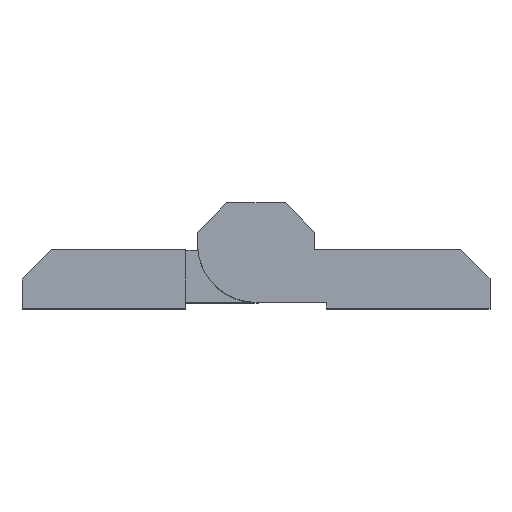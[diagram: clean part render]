
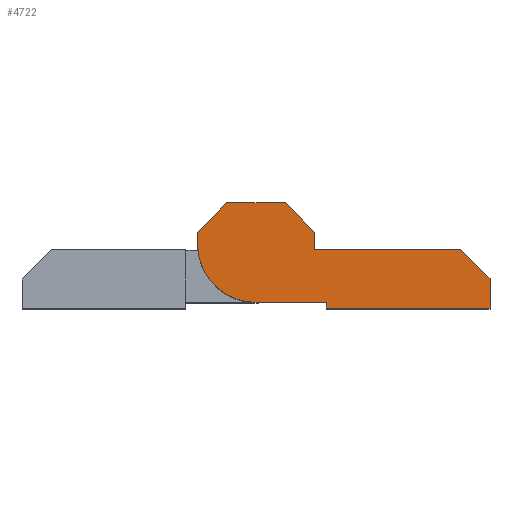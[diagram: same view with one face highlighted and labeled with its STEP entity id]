
A CAD part, top view. The second image highlights one B-rep face of the part: STEP entity #4722.
In plain terms, the highlighted planar face has unit normal (0, 0, 1) as drawn and (0, 0, -1) by its records, which use the part's own axes.
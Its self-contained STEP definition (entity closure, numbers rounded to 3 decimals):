
#175 = VECTOR ( 'NONE', #4039, 1000. ) ;
#354 = VERTEX_POINT ( 'NONE', #3472 ) ;
#476 = LINE ( 'NONE', #9415, #8326 ) ;
#759 = LINE ( 'NONE', #8026, #12015 ) ;
#962 = DIRECTION ( 'NONE',  ( 1., 0., 0. ) ) ;
#1066 = CARTESIAN_POINT ( 'NONE',  ( -5., -0.5, 0. ) ) ;
#1359 = VECTOR ( 'NONE', #3461, 1000. ) ;
#1420 = VERTEX_POINT ( 'NONE', #4085 ) ;
#1728 = VERTEX_POINT ( 'NONE', #13054 ) ;
#1833 = DIRECTION ( 'NONE',  ( 1., 0., 0. ) ) ;
#1932 = CARTESIAN_POINT ( 'NONE',  ( -17.5, -0.5, 0. ) ) ;
#1958 = CARTESIAN_POINT ( 'NONE',  ( -20., -3., 0. ) ) ;
#2100 = EDGE_CURVE ( 'NONE', #8627, #12536, #476, .T. ) ;
#2144 = CIRCLE ( 'NONE', #9670, 5. ) ;
#2277 = CARTESIAN_POINT ( 'NONE',  ( 5., 0., 0. ) ) ;
#2293 = CARTESIAN_POINT ( 'NONE',  ( -6., -5., 0. ) ) ;
#2438 = DIRECTION ( 'NONE',  ( 0., 0., 1. ) ) ;
#2521 = DIRECTION ( 'NONE',  ( -1., 0., 0. ) ) ;
#2766 = CARTESIAN_POINT ( 'NONE',  ( -17.5, -0.5, 0. ) ) ;
#2845 = DIRECTION ( 'NONE',  ( 0., 1., 0. ) ) ;
#3414 = ORIENTED_EDGE ( 'NONE', *, *, #11072, .F. ) ;
#3421 = CARTESIAN_POINT ( 'NONE',  ( 2.5, 3.5, 0. ) ) ;
#3461 = DIRECTION ( 'NONE',  ( -1., 0., 0. ) ) ;
#3472 = CARTESIAN_POINT ( 'NONE',  ( -20., -3., 0. ) ) ;
#3520 = ORIENTED_EDGE ( 'NONE', *, *, #13023, .F. ) ;
#3823 = VECTOR ( 'NONE', #9273, 1000. ) ;
#3840 = VERTEX_POINT ( 'NONE', #2293 ) ;
#3999 = EDGE_CURVE ( 'NONE', #6646, #10235, #9885, .T. ) ;
#4039 = DIRECTION ( 'NONE',  ( -0.707, 0.707, 0. ) ) ;
#4085 = CARTESIAN_POINT ( 'NONE',  ( -20., -5.5, 0. ) ) ;
#4143 = EDGE_CURVE ( 'NONE', #7069, #1728, #8396, .T. ) ;
#4244 = DIRECTION ( 'NONE',  ( 0., -1., 0. ) ) ;
#4319 = ORIENTED_EDGE ( 'NONE', *, *, #4923, .F. ) ;
#4435 = ORIENTED_EDGE ( 'NONE', *, *, #5433, .F. ) ;
#4565 = VERTEX_POINT ( 'NONE', #6956 ) ;
#4643 = ORIENTED_EDGE ( 'NONE', *, *, #9928, .F. ) ;
#4687 = VECTOR ( 'NONE', #9213, 1000. ) ;
#4722 = ADVANCED_FACE ( 'NONE', ( #9427 ), #8551, .F. ) ;
#4728 = CARTESIAN_POINT ( 'NONE',  ( -6., -5., 0. ) ) ;
#4920 = LINE ( 'NONE', #2766, #8422 ) ;
#4923 = EDGE_CURVE ( 'NONE', #12726, #354, #12224, .T. ) ;
#5330 = CARTESIAN_POINT ( 'NONE',  ( 0., -5., 0. ) ) ;
#5433 = EDGE_CURVE ( 'NONE', #1728, #6646, #11080, .T. ) ;
#5642 = VECTOR ( 'NONE', #4244, 1000. ) ;
#5677 = ORIENTED_EDGE ( 'NONE', *, *, #2100, .F. ) ;
#5784 = CARTESIAN_POINT ( 'NONE',  ( 2.5, 3.5, 0. ) ) ;
#5952 = EDGE_LOOP ( 'NONE', ( #4435, #8493, #6431, #3520, #8316, #4643, #9726, #4319, #6761, #5677, #3414, #10208 ) ) ;
#6174 = CARTESIAN_POINT ( 'NONE',  ( -2.5, 3.5, 0. ) ) ;
#6431 = ORIENTED_EDGE ( 'NONE', *, *, #13025, .F. ) ;
#6646 = VERTEX_POINT ( 'NONE', #3421 ) ;
#6761 = ORIENTED_EDGE ( 'NONE', *, *, #9260, .F. ) ;
#6762 = DIRECTION ( 'NONE',  ( 1., 0., 0. ) ) ;
#6956 = CARTESIAN_POINT ( 'NONE',  ( -6., -5.5, 0. ) ) ;
#7064 = EDGE_CURVE ( 'NONE', #4565, #3840, #9095, .T. ) ;
#7069 = VERTEX_POINT ( 'NONE', #11904 ) ;
#8026 = CARTESIAN_POINT ( 'NONE',  ( 0., -5., 0. ) ) ;
#8217 = LINE ( 'NONE', #9223, #10948 ) ;
#8316 = ORIENTED_EDGE ( 'NONE', *, *, #7064, .F. ) ;
#8326 = VECTOR ( 'NONE', #12501, 1000. ) ;
#8396 = LINE ( 'NONE', #2277, #3823 ) ;
#8422 = VECTOR ( 'NONE', #2521, 1000. ) ;
#8493 = ORIENTED_EDGE ( 'NONE', *, *, #4143, .F. ) ;
#8551 = PLANE ( 'NONE',  #13035 ) ;
#8627 = VERTEX_POINT ( 'NONE', #13158 ) ;
#8651 = VECTOR ( 'NONE', #6762, 1000. ) ;
#9095 = LINE ( 'NONE', #4728, #13076 ) ;
#9163 = DIRECTION ( 'NONE',  ( 0., 0., 1. ) ) ;
#9213 = DIRECTION ( 'NONE',  ( -0.707, -0.707, 0. ) ) ;
#9214 = LINE ( 'NONE', #9408, #5642 ) ;
#9223 = CARTESIAN_POINT ( 'NONE',  ( -2.5, 3.5, 0. ) ) ;
#9260 = EDGE_CURVE ( 'NONE', #12536, #12726, #4920, .T. ) ;
#9273 = DIRECTION ( 'NONE',  ( 0., 1., 0. ) ) ;
#9335 = EDGE_CURVE ( 'NONE', #354, #1420, #9214, .T. ) ;
#9408 = CARTESIAN_POINT ( 'NONE',  ( -20., -5.5, 0. ) ) ;
#9415 = CARTESIAN_POINT ( 'NONE',  ( -5., -0.5, 0. ) ) ;
#9427 = FACE_OUTER_BOUND ( 'NONE', #5952, .T. ) ;
#9670 = AXIS2_PLACEMENT_3D ( 'NONE', #13053, #9163, #1833 ) ;
#9726 = ORIENTED_EDGE ( 'NONE', *, *, #9335, .F. ) ;
#9885 = LINE ( 'NONE', #5784, #1359 ) ;
#9928 = EDGE_CURVE ( 'NONE', #1420, #4565, #12055, .T. ) ;
#10044 = CARTESIAN_POINT ( 'NONE',  ( -6., -5.5, 0. ) ) ;
#10208 = ORIENTED_EDGE ( 'NONE', *, *, #3999, .F. ) ;
#10235 = VERTEX_POINT ( 'NONE', #6174 ) ;
#10297 = DIRECTION ( 'NONE',  ( -0.707, -0.707, 0. ) ) ;
#10508 = CARTESIAN_POINT ( 'NONE',  ( 0., 0., 0. ) ) ;
#10948 = VECTOR ( 'NONE', #10297, 1000. ) ;
#11072 = EDGE_CURVE ( 'NONE', #10235, #8627, #8217, .T. ) ;
#11080 = LINE ( 'NONE', #13220, #175 ) ;
#11506 = DIRECTION ( 'NONE',  ( 1., 0., 0. ) ) ;
#11904 = CARTESIAN_POINT ( 'NONE',  ( 5., 0., 0. ) ) ;
#12015 = VECTOR ( 'NONE', #962, 1000. ) ;
#12055 = LINE ( 'NONE', #10044, #8651 ) ;
#12224 = LINE ( 'NONE', #1958, #4687 ) ;
#12247 = VERTEX_POINT ( 'NONE', #5330 ) ;
#12501 = DIRECTION ( 'NONE',  ( -0.009, -1., 0. ) ) ;
#12536 = VERTEX_POINT ( 'NONE', #1066 ) ;
#12726 = VERTEX_POINT ( 'NONE', #1932 ) ;
#13023 = EDGE_CURVE ( 'NONE', #3840, #12247, #759, .T. ) ;
#13025 = EDGE_CURVE ( 'NONE', #12247, #7069, #2144, .T. ) ;
#13035 = AXIS2_PLACEMENT_3D ( 'NONE', #10508, #2438, #11506 ) ;
#13053 = CARTESIAN_POINT ( 'NONE',  ( 0., 0., 0. ) ) ;
#13054 = CARTESIAN_POINT ( 'NONE',  ( 5., 1., 0. ) ) ;
#13076 = VECTOR ( 'NONE', #2845, 1000. ) ;
#13158 = CARTESIAN_POINT ( 'NONE',  ( -4.987, 1.013, 0. ) ) ;
#13220 = CARTESIAN_POINT ( 'NONE',  ( 2.5, 3.5, 0. ) ) ;
